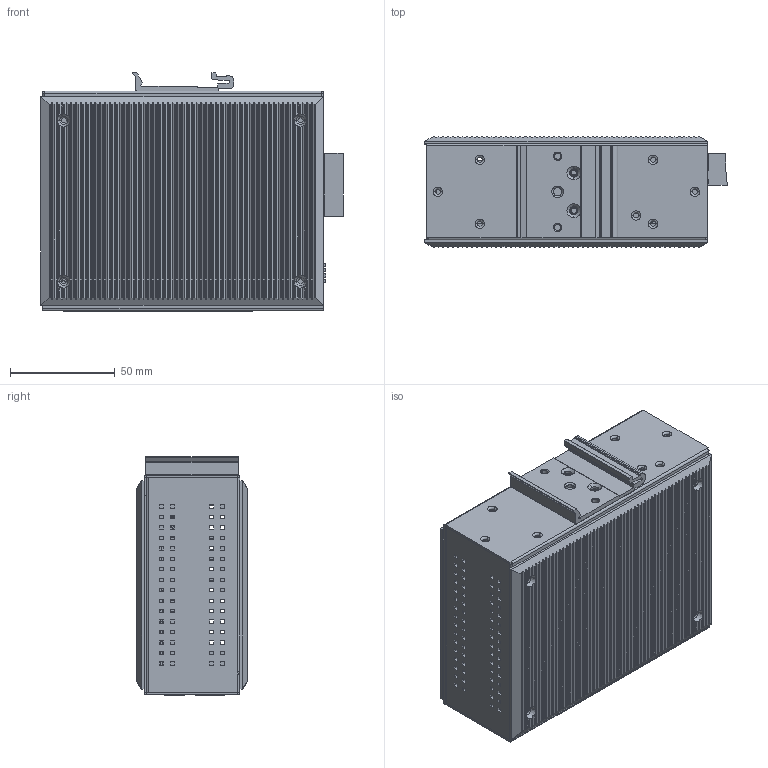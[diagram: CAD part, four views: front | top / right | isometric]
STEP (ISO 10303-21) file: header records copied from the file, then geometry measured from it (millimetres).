
FILE_DESCRIPTION((''),'2;1');
FILE_NAME('EDS-408A-3M-SC','2010-08-19T',('Chialu_Chang'),(''),'PRO/ENGINEER BY PARAMETRIC TECHNOLOGY CORPORATION, 2004440','PRO/ENGINEER BY PARAMETRIC TECHNOLOGY CORPORATION, 2004440','');
FILE_SCHEMA(('CONFIG_CONTROL_DESIGN'));
Products named in the file (1): EDS-408A-3M-SC
Bounding box: 144.45 x 52.98 x 114 mm (x, y, z)
Surface area: 282466.7 mm2 (no closed solid volume)
Topology: 0 solids, 65 shells, 5668 faces, 14250 edges, 9057 vertices
Faces by surface type: plane 4423, cylinder 1041, cone 122, torus 50, bspline 32
Entity records: 168616 total; most frequent: CARTESIAN_POINT 31733, ORIENTED_EDGE 28444, DIRECTION 26943, EDGE_CURVE 14244, VECTOR 11487, LINE 11487, VERTEX_POINT 9057, AXIS2_PLACEMENT_3D 7728
